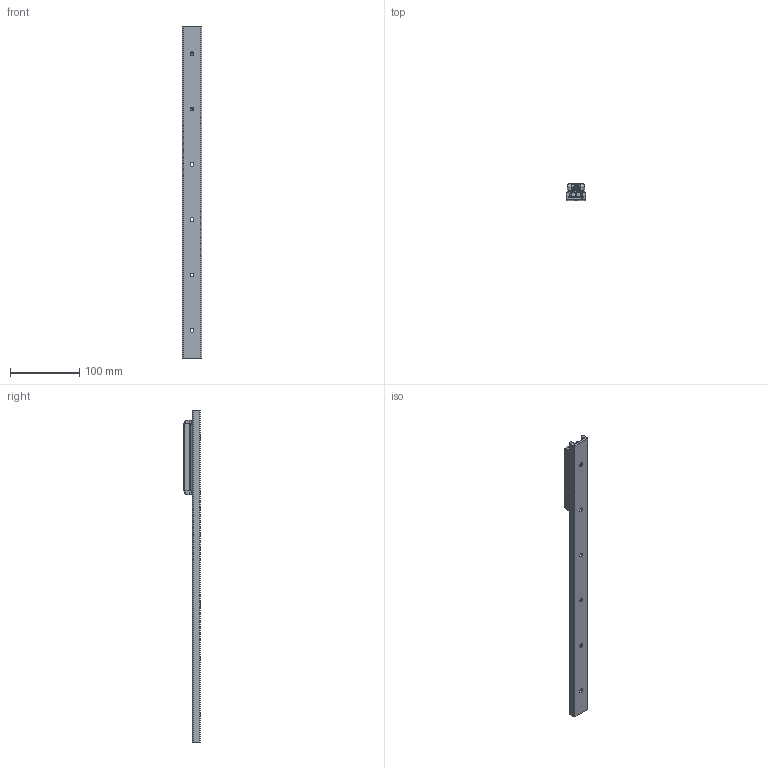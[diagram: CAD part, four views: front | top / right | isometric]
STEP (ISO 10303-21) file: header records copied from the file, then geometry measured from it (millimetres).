
FILE_DESCRIPTION( ( 'STEP AP214' ), '1' );
FILE_NAME( 'p:/temp/worker_16/temp/exporttempdir_2312_42_JI7ww/format_1/TGV-00480_1_RV28G-3.stp', '2020-11-20T15:15:07', ( 'License CC BY-ND 4.0' ), ( 'CADENAS' ), ' ', 'PARTsolutions', ' ' );
FILE_SCHEMA( ( 'AUTOMOTIVE_DESIGN { 1 0 10303 214 1 1 1 1 }' ) );
Length unit declared in the file: millimetre
Products named in the file (6): TGV-00480/1/RV28G-3; _TGV28-0480-(3-1); _RV28G-3-slider; _RGNV28R; _RGAV28R; _WR28G-01
Assembly tree (7 placements, depth 2):
  TGV-00480/1/RV28G-3
    _TGV28-0480-(3-1)
    _RV28G-3-slider
    _RGNV28R  x2
    _RGAV28R
    _WR28G-01  x2
Bounding box: 28 x 24 x 480 mm (x, y, z)
Volume: 105799.7 mm3; surface area: 65583.9 mm2
Topology: 7 solids, 7 shells, 1024 faces, 2675 edges, 1747 vertices
Faces by surface type: plane 657, cylinder 286, cone 46, bspline 26, torus 9
Full cylindrical faces by diameter (mm): 1.27 x4, 2 x2, 2.5 x6, 4 x4, 4.134 x4, 4.2 x3, 5 x3, 5.5 x3, 5.75 x6, 7 x5, 7.5 x1, 8 x6, 10.8 x3, 17 x3, 20.75 x6
Entity records: 24471 total; most frequent: CARTESIAN_POINT 3923, DIRECTION 3260, ORIENTED_EDGE 3030, EDGE_CURVE 1515, AXIS2_PLACEMENT_3D 1235, VERTEX_POINT 1047, EDGE_LOOP 827, LINE 790
